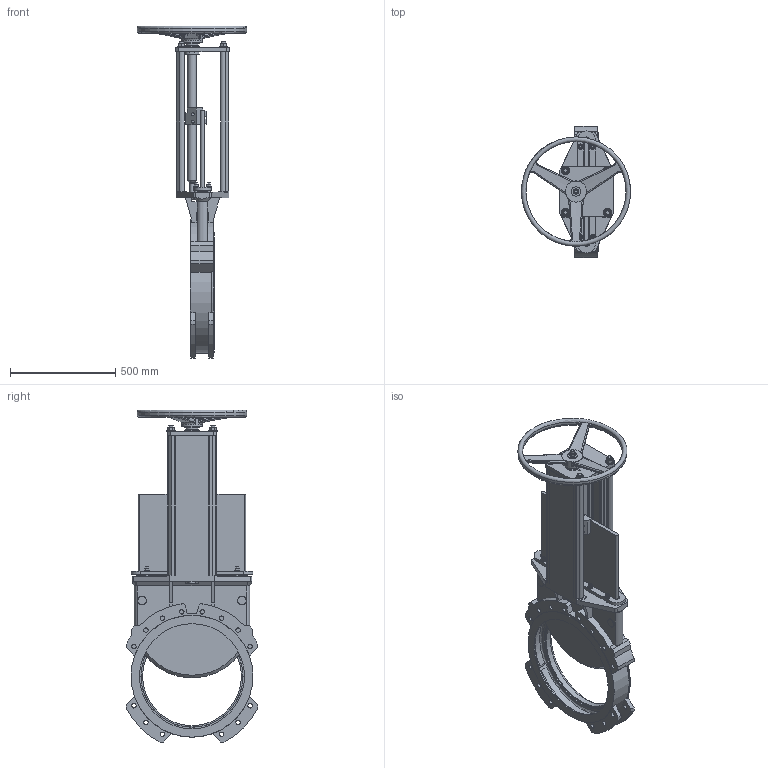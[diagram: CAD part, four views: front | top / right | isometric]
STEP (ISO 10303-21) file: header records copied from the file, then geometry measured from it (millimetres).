
FILE_DESCRIPTION(('STEP AP203'),'1');
FILE_NAME('G:/KONSTRUK/3-d block för CD/MV VALVE/HAND WHEEL/MV_DN500_PN10_HW.stp','2012-05-03T14:00:23',(' '),(' '),'Spatial InterOp 3D',' ',' ');
FILE_SCHEMA(('CONFIG_CONTROL_DESIGN'));
Length unit declared in the file: metre
Products named in the file (1): 1
Bounding box: 520 x 625 x 1579.98 mm (x, y, z)
Volume: 31536800.1 mm3; surface area: 4614329.2 mm2
Topology: 1 solids, 27 shells, 1450 faces, 3440 edges, 2163 vertices
Faces by surface type: plane 681, cone 360, cylinder 352, bspline 44, torus 13
Full cylindrical faces by diameter (mm): 3 x2, 4 x2, 6.75 x4, 8.5 x2, 10.25 x8, 12 x16, 13.435 x8, 14 x4, 15 x8, 16 x2, 16.818 x1, 17 x4, 17.385 x4, 17.5 x4, 18 x6, 20 x5, 21 x32, 22.06 x4, 25.14 x8, 28 x1, 31.69 x4, 37 x2, 38.69 x4, 40 x7, 41 x1, 41.5 x2, 42 x2, 44.7 x1, 66 x2, 70 x2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
Entity records: 52840 total; most frequent: CARTESIAN_POINT 21374, DIRECTION 6373, ORIENTED_EDGE 6200, EDGE_CURVE 3100, AXIS2_PLACEMENT_3D 2558, VERTEX_POINT 2086, EDGE_LOOP 1912, FACE_OUTER_BOUND 1620
